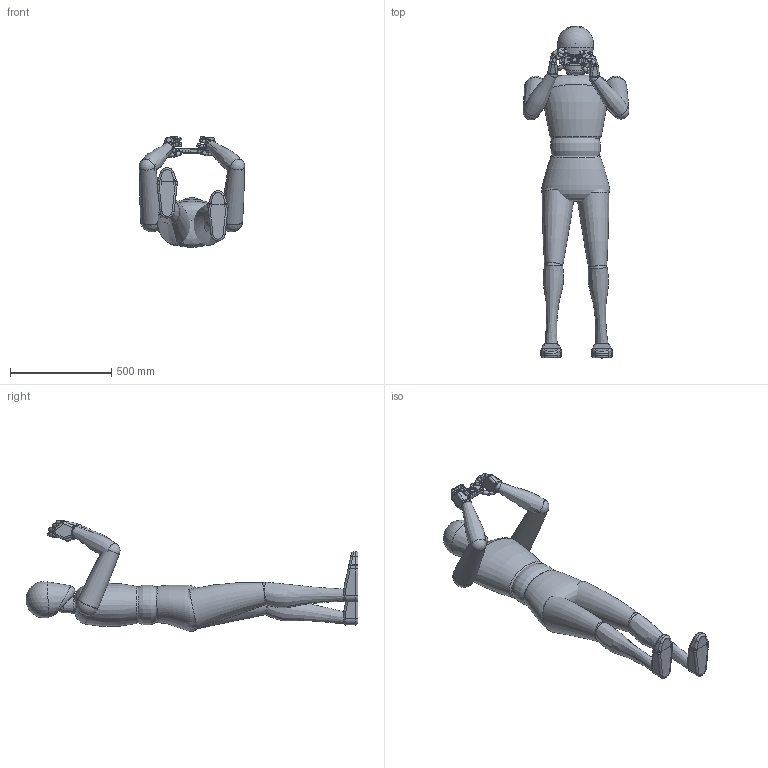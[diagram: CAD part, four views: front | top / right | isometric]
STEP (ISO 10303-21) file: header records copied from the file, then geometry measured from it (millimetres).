
FILE_DESCRIPTION(/* description */ (''),/* implementation_level */ '2;1');
FILE_NAME(/* name */ 'C:\Users\unitec\Documents\Inventor\HP\人物\170\19_写真を撮る\ragdoll-19.stp',/* time_stamp */ '2019-06-17T18:09:22+09:00',/* author */ ('unitec'),/* organization */ (''),/* preprocessor_version */ 'ST-DEVELOPER v15.2',/* originating_system */ 'Autodesk Inventor 2014',/* authorisation */ '');
FILE_SCHEMA (('AUTOMOTIVE_DESIGN { 1 0 10303 214 3 1 1 }'));
Length unit declared in the file: millimetre
Products named in the file (30): B3; B2; B1; L1; L2; L3; L4; A1; A2; H1; H2; H0; F2-1; F2-2; F2-3; F3-1; F3-2; F3-3; F4-1; F4-2; F4-3; F5-1; F5-2; F5-3; F1-1; F1-2; カメラ_L; カメラ_R; Part1; 写真を撮る
Bounding box: 521.75 x 1641.55 x 548.79 mm (x, y, z)
Volume: 67597849.3 mm3; surface area: 2338922.2 mm2
Topology: 49 solids, 49 shells, 799 faces, 2068 edges, 1280 vertices
Faces by surface type: plane 377, cylinder 202, sphere 115, cone 46, bspline 44, torus 15
Full cylindrical faces by diameter (mm): 1.3 x6, 1.5 x7, 2.8 x1, 3 x1, 3.3 x6, 3.5 x6, 20 x2, 22.5 x1
Entity records: 24349 total; most frequent: CARTESIAN_POINT 8883, DIRECTION 3184, ORIENTED_EDGE 2930, EDGE_CURVE 1465, AXIS2_PLACEMENT_3D 1140, VERTEX_POINT 953, LINE 904, VECTOR 904
